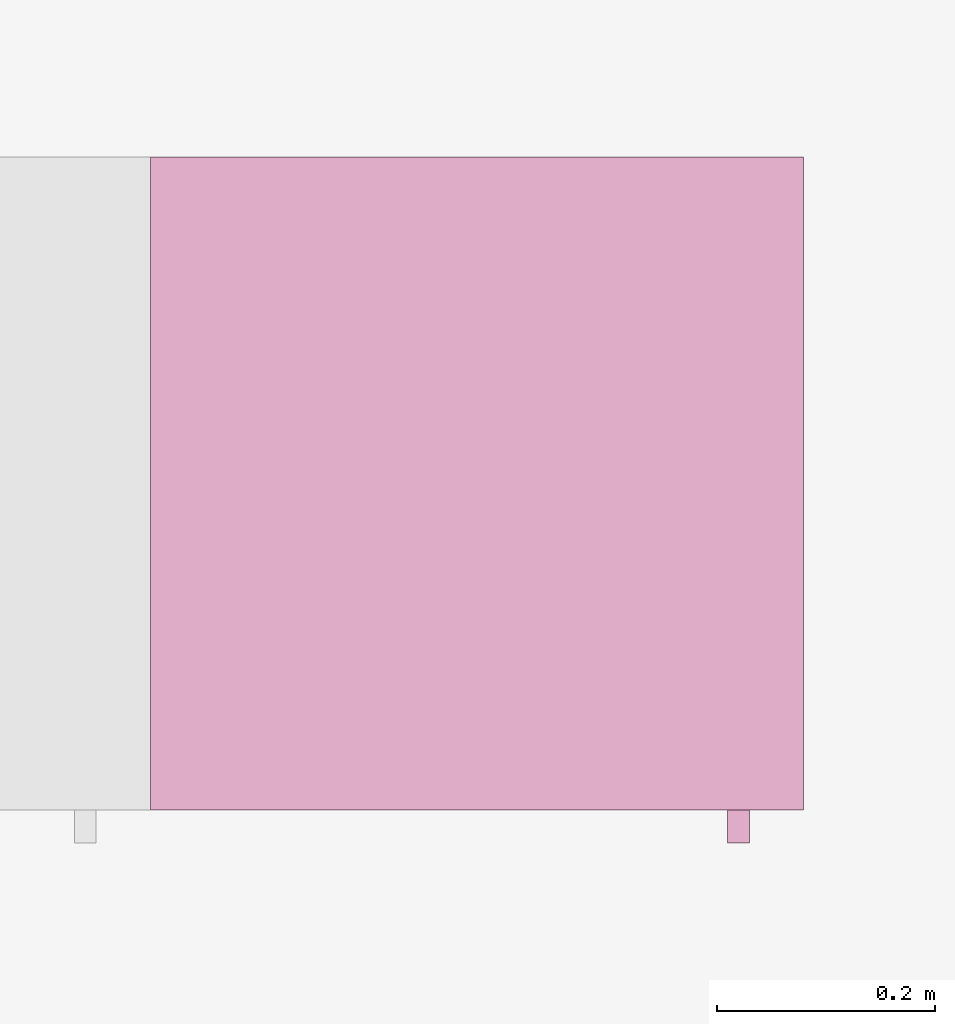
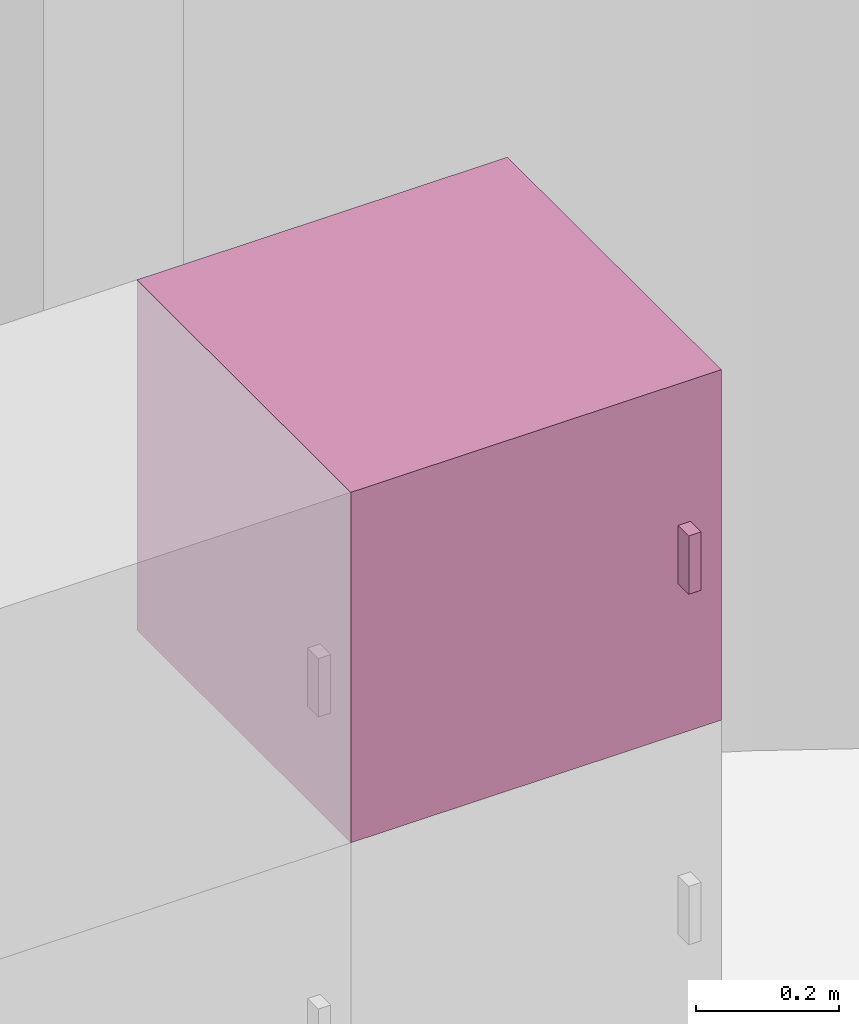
"""IFC4 building model written with IfcOpenShell, lengths in metres."""

from ifc_helpers import new_model, entity, si_unit, converted_unit, derived_unit, frame, origin, place, context, subcontext, project, spatial, faceted_brep, element, save


model = new_model("IFC4")

# Units and contexts
model_context = context("Model", 3, precision=1e-05, world=origin())
body_context = subcontext(model_context, "Body", "Model", "MODEL_VIEW")
ifc_project = project(units=[si_unit("LENGTHUNIT", "METRE"), si_unit("AREAUNIT", "SQUARE_METRE"), si_unit("VOLUMEUNIT", "CUBIC_METRE"), si_unit("MASSUNIT", "GRAM", prefix="KILO"), converted_unit("PLANEANGLEUNIT", "DEGREE", entity("IfcPlaneAngleMeasure", 0.0174532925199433), si_unit("PLANEANGLEUNIT", "RADIAN"), dimensions=[0, 0, 0, 0, 0, 0, 0]), derived_unit("THERMALTRANSMITTANCEUNIT", [(si_unit("POWERUNIT", "WATT"), 1), (si_unit("THERMODYNAMICTEMPERATUREUNIT", "KELVIN"), -1), (si_unit("LENGTHUNIT", "METRE"), -2)]), derived_unit("VOLUMETRICFLOWRATEUNIT", [(si_unit("LENGTHUNIT", "METRE"), 3), (converted_unit("TIMEUNIT", "hour", entity("IfcTimeMeasure", 3600.0), si_unit("TIMEUNIT", "SECOND"), dimensions=[0, 0, 1, 0, 0, 0, 0]), -1), (si_unit("LENGTHUNIT", "METRE"), -1)])], contexts=[model_context])

# Building, storeys
building_placement = place(None, origin())
building = spatial("IfcBuilding", under=ifc_project, at=building_placement, Name="HABITATGE PLURIFAMILIAR", CompositionType="ELEMENT")
storey_1_placement = place(building_placement, frame((0.0, 0.0, 15.28)))
storey_1 = spatial("IfcBuildingStorey", under=building, at=storey_1_placement, Name="PLANTA QUARTA", CompositionType="ELEMENT", Elevation=15.28)
storey_2_placement = place(storey_1_placement, frame((0.0, 0.0, 12.27)))
storey_2 = spatial("IfcBuildingStorey", under=storey_1, at=storey_2_placement, Name="NOU", CompositionType="PARTIAL")

# Furniture
furniture_placement = place(storey_2_placement, frame((407.062081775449, 21.5873137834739, -11.17)))
element("IfcFurniture", 1, at=furniture_placement, inside=storey_2, Name="Armai 60x60x60_P4", context=body_context, shape_type="Brep", body=[
    faceted_brep([(0.600000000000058, 0.0300000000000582, 0.02), (0.600000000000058, 0.0300000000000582, 0.0), (0.0, 0.0300000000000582, 0.0), (0.0, 0.0300000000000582, 0.02), (0.0, 0.630000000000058, 0.0), (0.0, 0.630000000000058, 0.02), (0.600000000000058, 0.630000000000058, 0.0), (0.600000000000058, 0.630000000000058, 0.02)], [[[0, 1, 2, 3]], [[3, 2, 4, 5]], [[5, 4, 6, 7]], [[7, 6, 1, 0]], [[0, 3, 5, 7]], [[1, 6, 4, 2]]], orient=[[False], [False], [False], [False], [False], [False]]),
    faceted_brep([(0.02, 0.63, 0.58), (0.02, 0.61, 0.58), (0.02, 0.61, 0.02), (0.02, 0.63, 0.02), (0.58, 0.61, 0.02), (0.58, 0.63, 0.02), (0.58, 0.61, 0.58), (0.58, 0.63, 0.58)], [[[0, 1, 2, 3]], [[3, 2, 4, 5]], [[5, 4, 6, 7]], [[7, 6, 1, 0]], [[0, 3, 5, 7]], [[1, 6, 4, 2]]], orient=[[False], [False], [False], [False], [False], [False]]),
    faceted_brep([(0.58, 0.0300000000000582, 0.58), (0.6, 0.0300000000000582, 0.58), (0.6, 0.0300000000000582, 0.02), (0.58, 0.0300000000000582, 0.02), (0.6, 0.630000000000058, 0.02), (0.58, 0.630000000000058, 0.02), (0.6, 0.630000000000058, 0.58), (0.58, 0.630000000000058, 0.58)], [[[0, 1, 2, 3]], [[3, 2, 4, 5]], [[5, 4, 6, 7]], [[7, 6, 1, 0]], [[0, 3, 5, 7]], [[1, 6, 4, 2]]], orient=[[False], [False], [False], [False], [False], [False]]),
    faceted_brep([(0.600000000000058, 0.0500000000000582, 0.58), (0.600000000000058, 0.0300000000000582, 0.58), (0.600000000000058, 0.0300000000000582, 0.02), (0.600000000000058, 0.0500000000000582, 0.02), (0.580000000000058, 0.0300000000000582, 0.02), (0.580000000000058, 0.0500000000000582, 0.02), (0.580000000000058, 0.0300000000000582, 0.58), (0.580000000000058, 0.0500000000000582, 0.58)], [[[0, 1, 2, 3]], [[3, 2, 4, 5]], [[5, 4, 6, 7]], [[7, 6, 1, 0]], [[0, 3, 5, 7]], [[1, 6, 4, 2]]], orient=[[False], [False], [False], [False], [False], [False]]),
    faceted_brep([(0.0, 0.0300000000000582, 0.58), (0.0200000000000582, 0.0300000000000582, 0.58), (0.0200000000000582, 0.0300000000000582, 0.02), (0.0, 0.0300000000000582, 0.02), (0.0200000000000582, 0.630000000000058, 0.02), (0.0, 0.630000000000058, 0.02), (0.0200000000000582, 0.630000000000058, 0.58), (0.0, 0.630000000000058, 0.58)], [[[0, 1, 2, 3]], [[3, 2, 4, 5]], [[5, 4, 6, 7]], [[7, 6, 1, 0]], [[0, 3, 5, 7]], [[1, 6, 4, 2]]], orient=[[False], [False], [False], [False], [False], [False]]),
    faceted_brep([(0.6, 0.03, 0.6), (0.6, 0.03, 0.58), (0.0, 0.03, 0.58), (0.0, 0.03, 0.6), (0.0, 0.63, 0.58), (0.0, 0.63, 0.6), (0.6, 0.63, 0.58), (0.6, 0.63, 0.6)], [[[0, 1, 2, 3]], [[3, 2, 4, 5]], [[5, 4, 6, 7]], [[7, 6, 1, 0]], [[0, 3, 5, 7]], [[1, 6, 4, 2]]], orient=[[False], [False], [False], [False], [False], [False]]),
    faceted_brep([(0.02, 0.05, 0.58), (0.02, 0.03, 0.58), (0.02, 0.03, 0.02), (0.02, 0.05, 0.02), (0.580000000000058, 0.03, 0.02), (0.580000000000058, 0.05, 0.02), (0.580000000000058, 0.03, 0.58), (0.580000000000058, 0.05, 0.58)], [[[0, 1, 2, 3]], [[3, 2, 4, 5]], [[5, 4, 6, 7]], [[7, 6, 1, 0]], [[0, 3, 5, 7]], [[1, 6, 4, 2]]], orient=[[False], [False], [False], [False], [False], [False]]),
    faceted_brep([(0.53, 0.03, 0.358064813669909), (0.53, 0.0, 0.358064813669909), (0.53, 0.0, 0.258064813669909), (0.53, 0.03, 0.258064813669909), (0.55, 0.0, 0.258064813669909), (0.55, 0.03, 0.258064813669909), (0.55, 0.0, 0.358064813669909), (0.55, 0.03, 0.358064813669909)], [[[0, 1, 2, 3]], [[3, 2, 4, 5]], [[5, 4, 6, 7]], [[7, 6, 1, 0]], [[0, 3, 5, 7]], [[1, 6, 4, 2]]], orient=[[False], [False], [False], [False], [False], [False]]),
])

save(model, "model.ifc")
